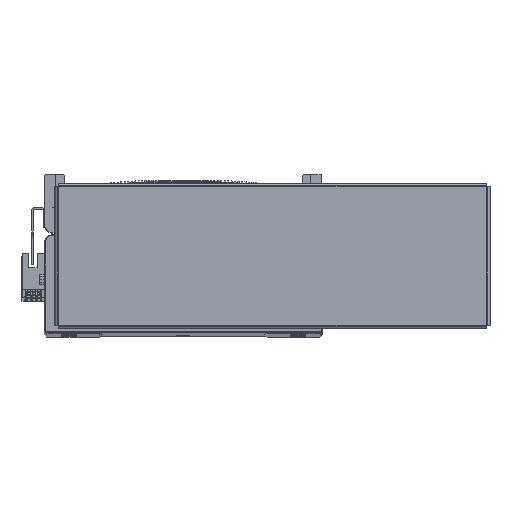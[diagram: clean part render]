
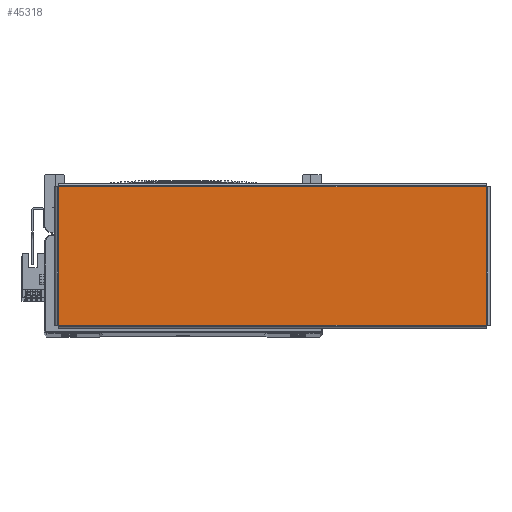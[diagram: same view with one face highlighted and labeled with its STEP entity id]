
A CAD part, top view. The second image highlights one B-rep face of the part: STEP entity #45318.
In plain terms, the highlighted planar face has unit normal (0, 0, 1) as drawn and (0, -1, 0) by its records, which use the part's own axes.
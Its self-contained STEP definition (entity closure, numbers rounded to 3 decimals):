
#3476 = ORIENTED_EDGE ( 'NONE', *, *, #66749, .T. ) ;
#3486 = ORIENTED_EDGE ( 'NONE', *, *, #66634, .T. ) ;
#3493 = ORIENTED_EDGE ( 'NONE', *, *, #66505, .T. ) ;
#3514 = ORIENTED_EDGE ( 'NONE', *, *, #66743, .T. ) ;
#3964 = VERTEX_POINT ( 'NONE', #64857 ) ;
#3967 = VERTEX_POINT ( 'NONE', #64861 ) ;
#3992 = VERTEX_POINT ( 'NONE', #49818 ) ;
#3994 = VERTEX_POINT ( 'NONE', #49816 ) ;
#13843 = AXIS2_PLACEMENT_3D ( 'NONE', #64476, #64457, #64466 ) ;
#14819 = DIRECTION ( 'NONE',  ( 1., 0., 0. ) ) ;
#14825 = CARTESIAN_POINT ( 'NONE',  ( -130.893, -1.5, -42.263 ) ) ;
#14915 = EDGE_LOOP ( 'NONE', ( #3514, #3476, #3493, #3486 ) ) ;
#14925 = CARTESIAN_POINT ( 'NONE',  ( 130.893, -1.5, 42.263 ) ) ;
#14931 = DIRECTION ( 'NONE',  ( -1., 0., 0. ) ) ;
#14940 = CARTESIAN_POINT ( 'NONE',  ( 130.863, -1.5, -42.293 ) ) ;
#14977 = DIRECTION ( 'NONE',  ( 0., 0., 1. ) ) ;
#37373 = DIRECTION ( 'NONE',  ( 0., 0., -1. ) ) ;
#37407 = CARTESIAN_POINT ( 'NONE',  ( -130.863, -1.5, 42.293 ) ) ;
#42673 = FACE_OUTER_BOUND ( 'NONE', #14915, .T. ) ;
#45318 = ADVANCED_FACE ( 'NONE', ( #42673 ), #64465, .F. ) ;
#47360 = LINE ( 'NONE', #37407, #47377 ) ;
#47377 = VECTOR ( 'NONE', #37373, 1000. ) ;
#47506 = LINE ( 'NONE', #14825, #47508 ) ;
#47508 = VECTOR ( 'NONE', #14819, 1000. ) ;
#47534 = VECTOR ( 'NONE', #14931, 1000. ) ;
#47632 = LINE ( 'NONE', #14940, #47634 ) ;
#47634 = VECTOR ( 'NONE', #14977, 1000. ) ;
#47646 = LINE ( 'NONE', #14925, #47534 ) ;
#49816 = CARTESIAN_POINT ( 'NONE',  ( -130.863, -1.5, 42.263 ) ) ;
#49818 = CARTESIAN_POINT ( 'NONE',  ( -130.863, -1.5, -42.263 ) ) ;
#64457 = DIRECTION ( 'NONE',  ( 0., 1., 0. ) ) ;
#64465 = PLANE ( 'NONE',  #13843 ) ;
#64466 = DIRECTION ( 'NONE',  ( 0., 0., 1. ) ) ;
#64476 = CARTESIAN_POINT ( 'NONE',  ( 0., -1.5, 0. ) ) ;
#64857 = CARTESIAN_POINT ( 'NONE',  ( 130.863, -1.5, 42.263 ) ) ;
#64861 = CARTESIAN_POINT ( 'NONE',  ( 130.863, -1.5, -42.263 ) ) ;
#66505 = EDGE_CURVE ( 'NONE', #3994, #3992, #47360, .T. ) ;
#66634 = EDGE_CURVE ( 'NONE', #3992, #3967, #47506, .T. ) ;
#66743 = EDGE_CURVE ( 'NONE', #3967, #3964, #47632, .T. ) ;
#66749 = EDGE_CURVE ( 'NONE', #3964, #3994, #47646, .T. ) ;
